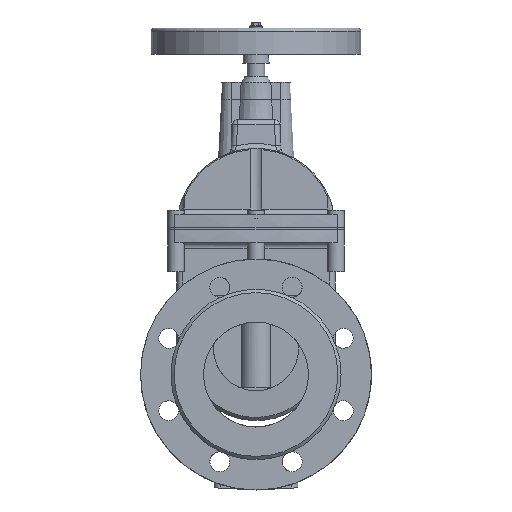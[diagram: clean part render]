
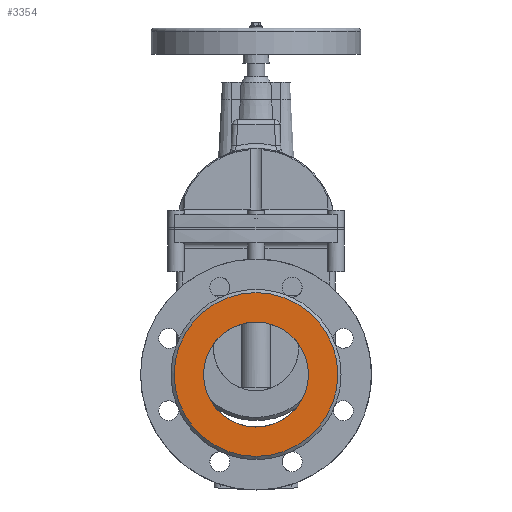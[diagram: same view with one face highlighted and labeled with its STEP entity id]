
A CAD part, left-side view. The second image highlights one B-rep face of the part: STEP entity #3354.
In plain terms, the highlighted planar face has unit normal (-1, 0, 0).
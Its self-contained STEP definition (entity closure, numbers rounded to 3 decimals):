
#3354=ADVANCED_FACE('',(#8546,#8548),#8550,.T.);
#8546=FACE_BOUND('',#8547,.T.);
#8547=EDGE_LOOP('',(#17941));
#8548=FACE_BOUND('',#8549,.T.);
#8549=EDGE_LOOP('',(#17942));
#8550=PLANE('',#8551);
#8551=AXIS2_PLACEMENT_3D('',#8552,#8553,#8554);
#8552=CARTESIAN_POINT('',(-150.,0.,0.));
#8553=DIRECTION('',(-1.,0.,0.));
#8554=DIRECTION('',(0.,-1.,0.));
#17941=ORIENTED_EDGE('',*,*,#20771,.T.);
#17942=ORIENTED_EDGE('',*,*,#20773,.T.);
#20771=EDGE_CURVE('',#23620,#23620,#23621,.T.);
#20773=EDGE_CURVE('',#23624,#23624,#23625,.F.);
#23620=VERTEX_POINT('',#33412);
#23621=CIRCLE('',#33413,78.);
#23624=VERTEX_POINT('',#33422);
#23625=CIRCLE('',#33423,50.);
#33412=CARTESIAN_POINT('',(-150.,-78.,0.));
#33413=AXIS2_PLACEMENT_3D('',#33414,#33415,#33416);
#33414=CARTESIAN_POINT('',(-150.,0.,0.));
#33415=DIRECTION('',(-1.,0.,0.));
#33416=DIRECTION('',(0.,-1.,0.));
#33422=CARTESIAN_POINT('',(-150.,-50.,0.));
#33423=AXIS2_PLACEMENT_3D('',#33424,#33425,#33426);
#33424=CARTESIAN_POINT('',(-150.,0.,0.));
#33425=DIRECTION('',(-1.,0.,0.));
#33426=DIRECTION('',(0.,-1.,0.));
